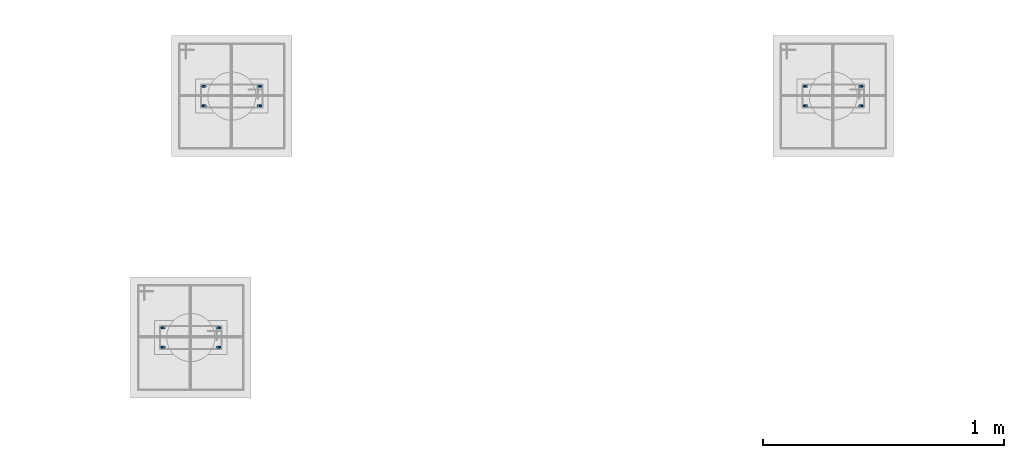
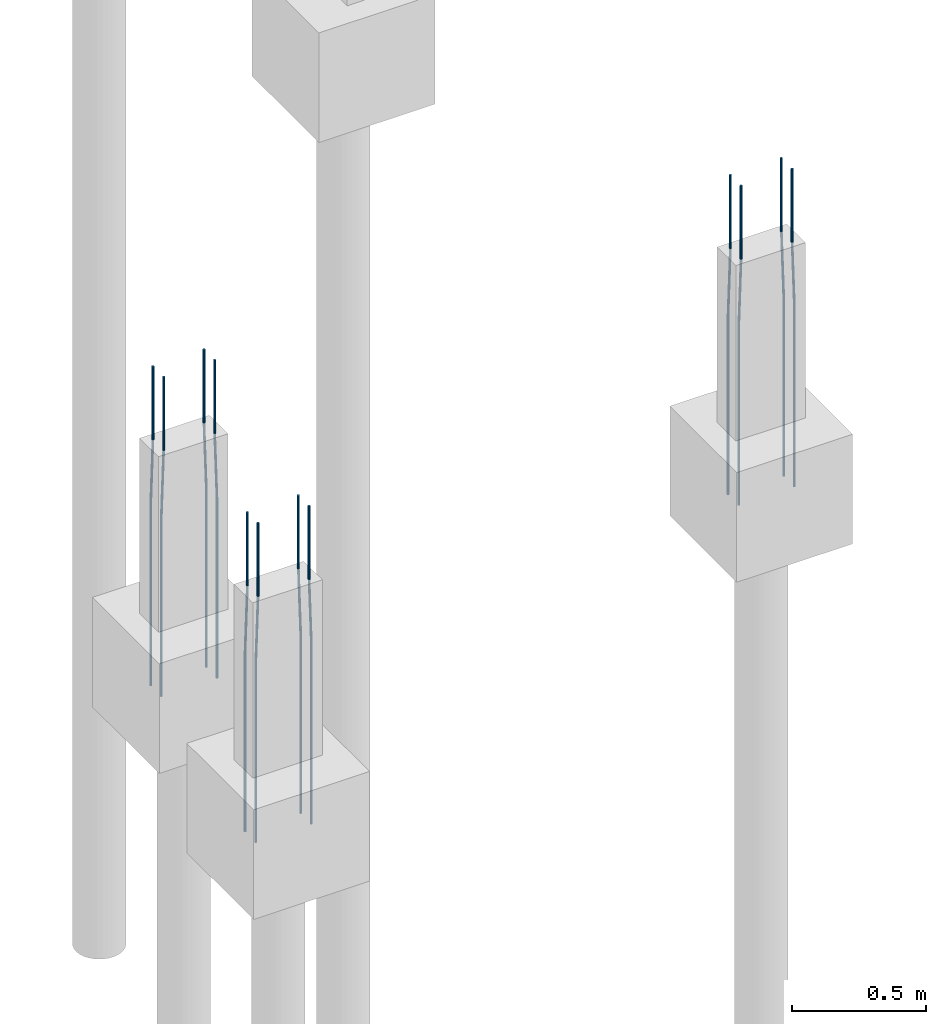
# One storey, part 7 of 119: 12 reinforcing bars.
"""IFC4 building model written with IfcOpenShell, lengths in centimetres."""

from ifc_helpers import new_model, entity, si_unit, derived_unit, frame, origin_with_axes, place, context, project, spatial, element, save


model = new_model("IFC4")

# Units and contexts
model_context = context("Model", 3, precision=1e-05, world=origin_with_axes(), identifier="Body")
ifc_project = project(units=[si_unit("LENGTHUNIT", "METRE", prefix="CENTI"), si_unit("VOLUMEUNIT", "CUBIC_METRE"), si_unit("AREAUNIT", "SQUARE_METRE"), si_unit("POWERUNIT", "WATT"), si_unit("LUMINOUSFLUXUNIT", "LUMEN"), si_unit("ELECTRICCURRENTUNIT", "AMPERE"), si_unit("PRESSUREUNIT", "PASCAL", prefix="KILO"), si_unit("MASSUNIT", "GRAM", prefix="KILO"), si_unit("PLANEANGLEUNIT", "RADIAN"), derived_unit("VOLUMETRICFLOWRATEUNIT", [(si_unit("LENGTHUNIT", "METRE"), 3), (si_unit("TIMEUNIT", "SECOND"), -1)])], contexts=[model_context])

# Site, building, storey
site_placement = place(None, frame((-4000.0, 0.0, 0.0), z_axis=(0.0, 0.0, 1.0), x_axis=(1.0, 0.0, 0.0)))
site = spatial("IfcSite", under=ifc_project, at=site_placement, Name="PADRÃO")
building_placement = place(site_placement, frame((0.0, 0.0, -14.0)))
building = spatial("IfcBuilding", under=site, at=building_placement, Name="CRECHE PRÉ-ESCOLA TIPO 2")
storey_placement = place(building_placement, origin_with_axes())
storey = spatial("IfcBuildingStorey", under=building, at=storey_placement, Name="FUNDAÇÃO", CompositionType="ELEMENT", Elevation=-14.0)

# Reinforcing bars
for number, where, z_axis, x_axis, name in (
    (1, (1139.22, 519.01, 33.3573001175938), (0.0, 0.0, 1.0), (1.0, 0.0, 0.0), "P137 - Longitudinal"),
    (2, (1139.22, 511.01, 33.3573001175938), (0.0, 0.0, 1.0), (1.0, 0.0, 0.0), "P137 - Longitudinal"),
):
    element("IfcReinforcingBar", number, at=place(storey_placement, frame(where, z_axis=z_axis, x_axis=x_axis)), inside=storey, Name=name, BarLength=0.0, CrossSectionArea=7.853981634e-05, NominalDiameter=1.0, PredefinedType="MAIN", context=model_context, shape_type="AdvancedSweptSolid", body=[
        entity("IfcSweptDiskSolid", entity("IfcCompositeCurve", [entity("IfcCompositeCurveSegment", "CONTINUOUS", True, entity("IfcPolyline", [entity("IfcCartesianPoint", [0.5, 0.0, -145.357300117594]), entity("IfcCartesianPoint", [0.5, 0.0, -63.3573001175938])])), entity("IfcCompositeCurveSegment", "CONTINUOUS", True, entity("IfcPolyline", [entity("IfcCartesianPoint", [0.5, 0.0, -63.3573001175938]), entity("IfcCartesianPoint", [-0.5, 0.0, -33.3573001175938])])), entity("IfcCompositeCurveSegment", "CONTINUOUS", True, entity("IfcPolyline", [entity("IfcCartesianPoint", [-0.5, 0.0, -33.3573001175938]), entity("IfcCartesianPoint", [-0.5, 0.0, 0.0])]))], False), 0.5),
    ])
for number, where, z_axis, x_axis, name in (
    (3, (1116.22, 511.01, 33.3573001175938), (0.0, 0.0, 1.0), (1.0, 0.0, 0.0), "P137 - Longitudinal"),
    (4, (1116.22, 519.01, 33.3573001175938), (0.0, 0.0, 1.0), (1.0, 0.0, 0.0), "P137 - Longitudinal"),
    (5, (1365.34, 519.01, 33.3573001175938), (0.0, 0.0, 1.0), (1.0, 0.0, 0.0), "P138 - Longitudinal"),
    (6, (1365.34, 511.01, 33.3573001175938), (0.0, 0.0, 1.0), (1.0, 0.0, 0.0), "P138 - Longitudinal"),
):
    element("IfcReinforcingBar", number, at=place(storey_placement, frame(where, z_axis=z_axis, x_axis=x_axis)), inside=storey, Name=name, BarLength=0.0, CrossSectionArea=7.853981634e-05, NominalDiameter=1.0, PredefinedType="MAIN", context=model_context, shape_type="AdvancedSweptSolid", body=[
        entity("IfcSweptDiskSolid", entity("IfcCompositeCurve", [entity("IfcCompositeCurveSegment", "CONTINUOUS", True, entity("IfcPolyline", [entity("IfcCartesianPoint", [-0.5, 0.0, -145.357300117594]), entity("IfcCartesianPoint", [-0.5, 0.0, -63.3573001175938])])), entity("IfcCompositeCurveSegment", "CONTINUOUS", True, entity("IfcPolyline", [entity("IfcCartesianPoint", [-0.5, 0.0, -63.3573001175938]), entity("IfcCartesianPoint", [0.5, 0.0, -33.3573001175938])])), entity("IfcCompositeCurveSegment", "CONTINUOUS", True, entity("IfcPolyline", [entity("IfcCartesianPoint", [0.5, 0.0, -33.3573001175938]), entity("IfcCartesianPoint", [0.5, 0.0, 0.0])]))], False), 0.5),
    ])
for number, where, z_axis, x_axis, name in (
    (7, (1388.34, 511.01, 33.3573001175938), (0.0, 0.0, 1.0), (1.0, 0.0, 0.0), "P138 - Longitudinal"),
    (8, (1388.34, 519.01, 33.3573001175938), (0.0, 0.0, 1.0), (1.0, 0.0, 0.0), "P138 - Longitudinal"),
):
    element("IfcReinforcingBar", number, at=place(storey_placement, frame(where, z_axis=z_axis, x_axis=x_axis)), inside=storey, Name=name, BarLength=0.0, CrossSectionArea=7.853981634e-05, NominalDiameter=1.0, PredefinedType="MAIN", context=model_context, shape_type="AdvancedSweptSolid", body=[
        entity("IfcSweptDiskSolid", entity("IfcCompositeCurve", [entity("IfcCompositeCurveSegment", "CONTINUOUS", True, entity("IfcPolyline", [entity("IfcCartesianPoint", [0.5, 0.0, -145.357300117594]), entity("IfcCartesianPoint", [0.5, 0.0, -63.3573001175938])])), entity("IfcCompositeCurveSegment", "CONTINUOUS", True, entity("IfcPolyline", [entity("IfcCartesianPoint", [0.5, 0.0, -63.3573001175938]), entity("IfcCartesianPoint", [-0.5, 0.0, -33.3573001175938])])), entity("IfcCompositeCurveSegment", "CONTINUOUS", True, entity("IfcPolyline", [entity("IfcCartesianPoint", [-0.5, 0.0, -33.3573001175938]), entity("IfcCartesianPoint", [-0.5, 0.0, 0.0])]))], False), 0.5),
    ])
for number, where, z_axis, x_axis, name in (
    (9, (1099.22, 411.01, 33.3573001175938), (0.0, 0.0, 1.0), (1.0, 0.0, 0.0), "P145 - Longitudinal"),
    (10, (1099.22, 419.01, 33.3573001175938), (0.0, 0.0, 1.0), (1.0, 0.0, 0.0), "P145 - Longitudinal"),
):
    element("IfcReinforcingBar", number, at=place(storey_placement, frame(where, z_axis=z_axis, x_axis=x_axis)), inside=storey, Name=name, BarLength=0.0, CrossSectionArea=7.853981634e-05, NominalDiameter=1.0, PredefinedType="MAIN", context=model_context, shape_type="AdvancedSweptSolid", body=[
        entity("IfcSweptDiskSolid", entity("IfcCompositeCurve", [entity("IfcCompositeCurveSegment", "CONTINUOUS", True, entity("IfcPolyline", [entity("IfcCartesianPoint", [-0.5, 0.0, -145.357300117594]), entity("IfcCartesianPoint", [-0.5, 0.0, -63.3573001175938])])), entity("IfcCompositeCurveSegment", "CONTINUOUS", True, entity("IfcPolyline", [entity("IfcCartesianPoint", [-0.5, 0.0, -63.3573001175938]), entity("IfcCartesianPoint", [0.5, 0.0, -33.3573001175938])])), entity("IfcCompositeCurveSegment", "CONTINUOUS", True, entity("IfcPolyline", [entity("IfcCartesianPoint", [0.5, 0.0, -33.3573001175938]), entity("IfcCartesianPoint", [0.5, 0.0, 0.0])]))], False), 0.5),
    ])
for number, where, z_axis, x_axis, name in (
    (11, (1122.22, 411.01, 33.3573001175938), (0.0, 0.0, 1.0), (1.0, 0.0, 0.0), "P145 - Longitudinal"),
    (12, (1122.22, 419.01, 33.3573001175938), (0.0, 0.0, 1.0), (1.0, 0.0, 0.0), "P145 - Longitudinal"),
):
    element("IfcReinforcingBar", number, at=place(storey_placement, frame(where, z_axis=z_axis, x_axis=x_axis)), inside=storey, Name=name, BarLength=0.0, CrossSectionArea=7.853981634e-05, NominalDiameter=1.0, PredefinedType="MAIN", context=model_context, shape_type="AdvancedSweptSolid", body=[
        entity("IfcSweptDiskSolid", entity("IfcCompositeCurve", [entity("IfcCompositeCurveSegment", "CONTINUOUS", True, entity("IfcPolyline", [entity("IfcCartesianPoint", [0.5, 0.0, -145.357300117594]), entity("IfcCartesianPoint", [0.5, 0.0, -63.3573001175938])])), entity("IfcCompositeCurveSegment", "CONTINUOUS", True, entity("IfcPolyline", [entity("IfcCartesianPoint", [0.5, 0.0, -63.3573001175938]), entity("IfcCartesianPoint", [-0.5, 0.0, -33.3573001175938])])), entity("IfcCompositeCurveSegment", "CONTINUOUS", True, entity("IfcPolyline", [entity("IfcCartesianPoint", [-0.5, 0.0, -33.3573001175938]), entity("IfcCartesianPoint", [-0.5, 0.0, 0.0])]))], False), 0.5),
    ])

save(model, "model.ifc")
